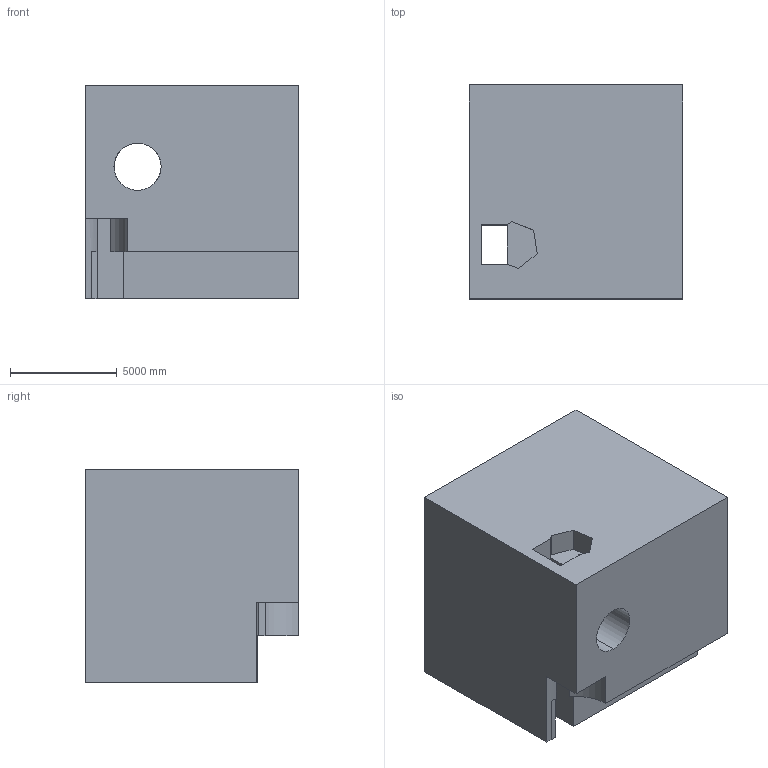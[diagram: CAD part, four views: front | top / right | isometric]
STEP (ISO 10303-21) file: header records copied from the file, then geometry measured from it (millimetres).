
FILE_DESCRIPTION (( 'STEP AP203' ), '1' );
FILE_NAME ('1943.STEP', '2022-08-25T16:49:17', ( 'user' ), ( '' ), 'SwSTEP 2.0', 'SolidWorks 2021', '' );
FILE_SCHEMA (( 'CONFIG_CONTROL_DESIGN' ));
Length unit declared in the file: centimetre
Products named in the file (1): 1943
Bounding box: 10000 x 10000 x 10000 mm (x, y, z)
Volume: 830297076091.5 mm3; surface area: 793414168.6 mm2
Topology: 1 solids, 1 shells, 51 faces, 146 edges, 97 vertices
Faces by surface type: plane 40, cylinder 11
Entity records: 1750 total; most frequent: CARTESIAN_POINT 295, ORIENTED_EDGE 292, DIRECTION 279, EDGE_CURVE 146, LINE 117, VECTOR 117, VERTEX_POINT 97, AXIS2_PLACEMENT_3D 81
